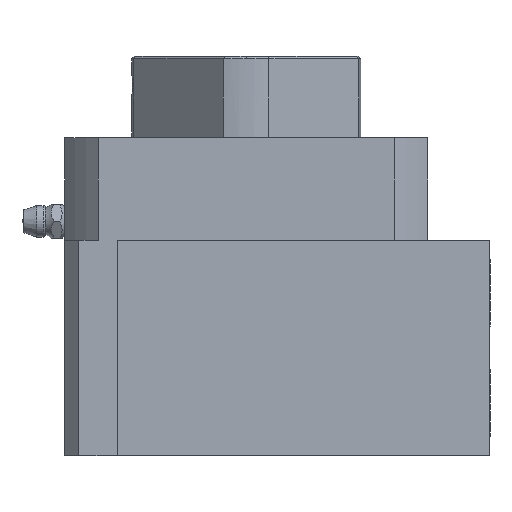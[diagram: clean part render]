
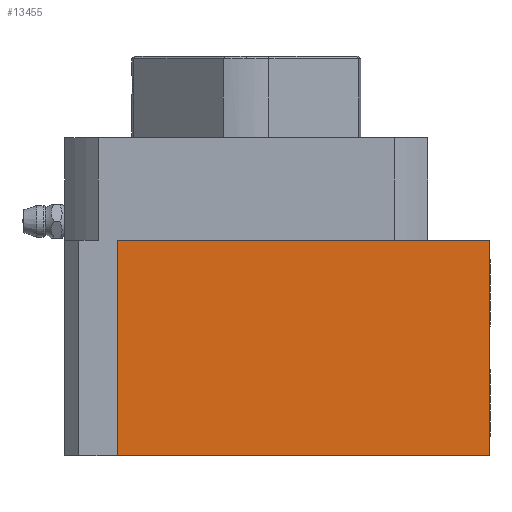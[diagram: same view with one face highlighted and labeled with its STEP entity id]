
A CAD part, left-side view. The second image highlights one B-rep face of the part: STEP entity #13455.
In plain terms, the highlighted planar face has unit normal (-1, 0, 0).
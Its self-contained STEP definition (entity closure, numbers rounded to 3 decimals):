
#13 = CARTESIAN_POINT ( 'NONE',  ( -64., 27., 45. ) ) ;
#29 = DIRECTION ( 'NONE',  ( 0., 0., -1. ) ) ;
#306 = ORIENTED_EDGE ( 'NONE', *, *, #9161, .F. ) ;
#712 = DIRECTION ( 'NONE',  ( 0., 0., 1. ) ) ;
#900 = ORIENTED_EDGE ( 'NONE', *, *, #4123, .T. ) ;
#1066 = CARTESIAN_POINT ( 'NONE',  ( -64., 27., 0. ) ) ;
#2290 = PLANE ( 'NONE',  #10788 ) ;
#2744 = VECTOR ( 'NONE', #29, 1000. ) ;
#3349 = LINE ( 'NONE', #12912, #9656 ) ;
#3790 = EDGE_CURVE ( 'NONE', #9987, #10970, #4504, .T. ) ;
#3905 = EDGE_LOOP ( 'NONE', ( #900, #306, #7888, #8201 ) ) ;
#4123 = EDGE_CURVE ( 'NONE', #10970, #10900, #3349, .T. ) ;
#4504 = LINE ( 'NONE', #14593, #13597 ) ;
#4628 = DIRECTION ( 'NONE',  ( 0., -1., 0. ) ) ;
#4699 = DIRECTION ( 'NONE',  ( 0., 0., -1. ) ) ;
#5233 = CARTESIAN_POINT ( 'NONE',  ( -64., -51., 45. ) ) ;
#6145 = FACE_OUTER_BOUND ( 'NONE', #3905, .T. ) ;
#7750 = LINE ( 'NONE', #13437, #2744 ) ;
#7888 = ORIENTED_EDGE ( 'NONE', *, *, #11739, .T. ) ;
#8201 = ORIENTED_EDGE ( 'NONE', *, *, #3790, .T. ) ;
#9032 = VECTOR ( 'NONE', #4628, 1000. ) ;
#9161 = EDGE_CURVE ( 'NONE', #15317, #10900, #14096, .T. ) ;
#9342 = CARTESIAN_POINT ( 'NONE',  ( -64., 27., 45. ) ) ;
#9656 = VECTOR ( 'NONE', #712, 1000. ) ;
#9987 = VERTEX_POINT ( 'NONE', #1066 ) ;
#10685 = DIRECTION ( 'NONE',  ( 1., 0., 0. ) ) ;
#10788 = AXIS2_PLACEMENT_3D ( 'NONE', #15594, #10685, #4699 ) ;
#10900 = VERTEX_POINT ( 'NONE', #5233 ) ;
#10970 = VERTEX_POINT ( 'NONE', #11545 ) ;
#11545 = CARTESIAN_POINT ( 'NONE',  ( -64., -51., 0. ) ) ;
#11739 = EDGE_CURVE ( 'NONE', #15317, #9987, #7750, .T. ) ;
#12912 = CARTESIAN_POINT ( 'NONE',  ( -64., -51., 45. ) ) ;
#13181 = DIRECTION ( 'NONE',  ( 0., -1., 0. ) ) ;
#13437 = CARTESIAN_POINT ( 'NONE',  ( -64., 27., 45. ) ) ;
#13455 = ADVANCED_FACE ( 'NONE', ( #6145 ), #2290, .F. ) ;
#13597 = VECTOR ( 'NONE', #13181, 1000. ) ;
#14096 = LINE ( 'NONE', #9342, #9032 ) ;
#14593 = CARTESIAN_POINT ( 'NONE',  ( -64., 0., 0. ) ) ;
#15317 = VERTEX_POINT ( 'NONE', #13 ) ;
#15594 = CARTESIAN_POINT ( 'NONE',  ( -64., 27., 45. ) ) ;
